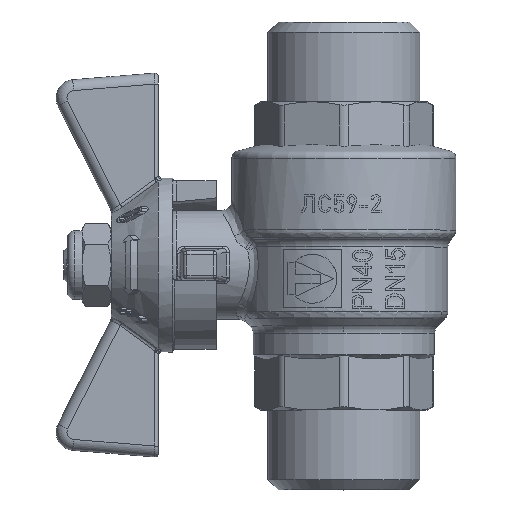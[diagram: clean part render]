
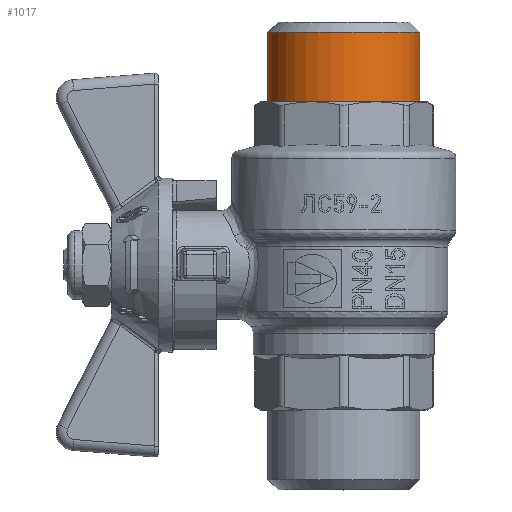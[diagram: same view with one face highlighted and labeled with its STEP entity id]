
A CAD part, top view. The second image highlights one B-rep face of the part: STEP entity #1017.
In plain terms, the highlighted cylindrical face has radius 10.477 mm (diameter 20.955 mm), a full revolution.
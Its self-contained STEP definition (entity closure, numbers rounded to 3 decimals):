
#1017=ADVANCED_FACE('',(#10903,#10905),#10907,.T.);
#10903=FACE_OUTER_BOUND('',#10904,.T.);
#10904=EDGE_LOOP('',(#22811));
#10905=FACE_OUTER_BOUND('',#10906,.T.);
#10906=EDGE_LOOP('',(#22812));
#10907=CYLINDRICAL_SURFACE('',#10908,10.478);
#10908=AXIS2_PLACEMENT_3D('',#10909,#10910,#10911);
#10909=CARTESIAN_POINT('',(0.,5.5,0.));
#10910=DIRECTION('',(0.,1.,0.));
#10911=DIRECTION('',(1.,0.,0.));
#22811=ORIENTED_EDGE('',*,*,#29824,.T.);
#22812=ORIENTED_EDGE('',*,*,#29745,.F.);
#29745=EDGE_CURVE('',#37396,#37396,#37397,.T.);
#29824=EDGE_CURVE('',#37476,#37476,#37477,.F.);
#37396=VERTEX_POINT('',#62650);
#37397=CIRCLE('',#62651,10.478);
#37476=VERTEX_POINT('',#62897);
#37477=CIRCLE('',#62898,10.478);
#62650=CARTESIAN_POINT('',(10.478,22.5,0.));
#62651=AXIS2_PLACEMENT_3D('',#62652,#62653,#62654);
#62652=CARTESIAN_POINT('',(0.,22.5,0.));
#62653=DIRECTION('',(0.,-1.,0.));
#62654=DIRECTION('',(1.,0.,0.));
#62897=CARTESIAN_POINT('',(10.478,32.1,0.));
#62898=AXIS2_PLACEMENT_3D('',#62899,#62900,#62901);
#62899=CARTESIAN_POINT('',(0.,32.1,0.));
#62900=DIRECTION('',(0.,1.,0.));
#62901=DIRECTION('',(1.,0.,0.));
